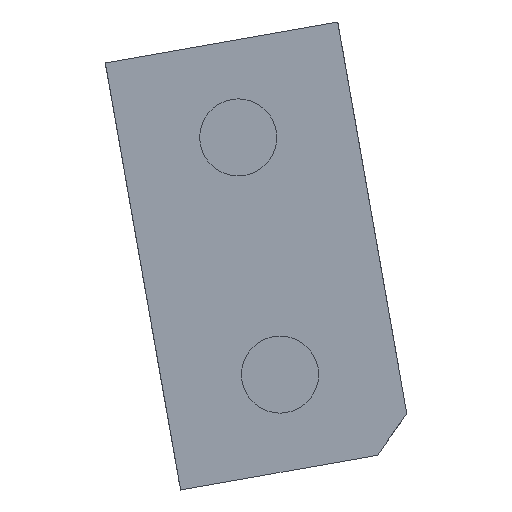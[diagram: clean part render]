
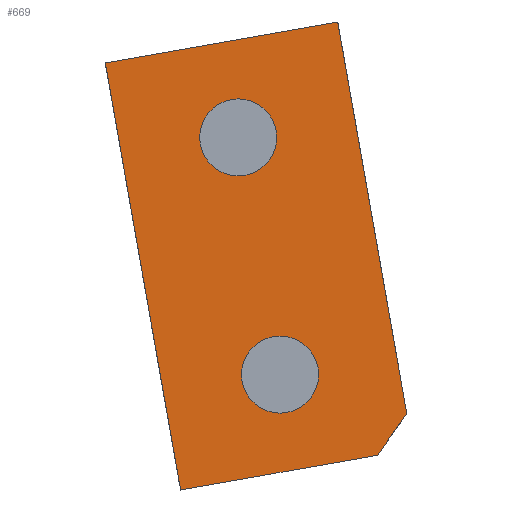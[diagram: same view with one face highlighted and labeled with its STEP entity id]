
A CAD part, left-side view. The second image highlights one B-rep face of the part: STEP entity #669.
In plain terms, the highlighted planar face has unit normal (-1, 0, 0).
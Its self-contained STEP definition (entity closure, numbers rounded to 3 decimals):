
#27=FACE_BOUND('',#102,.T.);
#28=FACE_BOUND('',#103,.T.);
#38=CIRCLE('',#724,1.6);
#39=CIRCLE('',#725,1.6);
#62=FACE_OUTER_BOUND('',#101,.T.);
#101=EDGE_LOOP('',(#455,#456,#457,#458,#459));
#102=EDGE_LOOP('',(#460));
#103=EDGE_LOOP('',(#461));
#151=LINE('',#991,#222);
#153=LINE('',#995,#224);
#154=LINE('',#997,#225);
#155=LINE('',#999,#226);
#156=LINE('',#1000,#227);
#222=VECTOR('',#791,10.);
#224=VECTOR('',#795,10.);
#225=VECTOR('',#796,10.);
#226=VECTOR('',#797,10.);
#227=VECTOR('',#798,10.);
#295=VERTEX_POINT('',#988);
#296=VERTEX_POINT('',#990);
#297=VERTEX_POINT('',#994);
#298=VERTEX_POINT('',#996);
#299=VERTEX_POINT('',#998);
#300=VERTEX_POINT('',#1001);
#301=VERTEX_POINT('',#1003);
#358=EDGE_CURVE('',#296,#295,#151,.T.);
#360=EDGE_CURVE('',#295,#297,#153,.T.);
#361=EDGE_CURVE('',#298,#297,#154,.T.);
#362=EDGE_CURVE('',#298,#299,#155,.T.);
#363=EDGE_CURVE('',#296,#299,#156,.T.);
#364=EDGE_CURVE('',#300,#300,#38,.T.);
#365=EDGE_CURVE('',#301,#301,#39,.T.);
#455=ORIENTED_EDGE('',*,*,#358,.T.);
#456=ORIENTED_EDGE('',*,*,#360,.T.);
#457=ORIENTED_EDGE('',*,*,#361,.F.);
#458=ORIENTED_EDGE('',*,*,#362,.T.);
#459=ORIENTED_EDGE('',*,*,#363,.F.);
#460=ORIENTED_EDGE('',*,*,#364,.T.);
#461=ORIENTED_EDGE('',*,*,#365,.T.);
#642=PLANE('',#723);
#669=ADVANCED_FACE('',(#62,#27,#28),#642,.F.);
#723=AXIS2_PLACEMENT_3D('',#993,#793,#794);
#724=AXIS2_PLACEMENT_3D('',#1002,#799,#800);
#725=AXIS2_PLACEMENT_3D('',#1004,#801,#802);
#791=DIRECTION('',(0.,-0.574,0.819));
#793=DIRECTION('center_axis',(1.,0.,0.));
#794=DIRECTION('ref_axis',(0.,-0.174,-0.985));
#795=DIRECTION('',(0.,0.174,0.985));
#796=DIRECTION('',(0.,-0.985,0.174));
#797=DIRECTION('',(0.,-0.174,-0.985));
#798=DIRECTION('',(0.,0.985,-0.174));
#799=DIRECTION('center_axis',(1.,0.,0.));
#800=DIRECTION('ref_axis',(0.,0.985,-0.174));
#801=DIRECTION('center_axis',(1.,0.,0.));
#802=DIRECTION('ref_axis',(0.,0.985,-0.174));
#988=CARTESIAN_POINT('',(41.226,-329.779,-3.466));
#990=CARTESIAN_POINT('',(41.226,-328.562,-5.204));
#991=CARTESIAN_POINT('',(41.226,-331.401,-1.149));
#993=CARTESIAN_POINT('Origin',(41.226,-302.962,24.807));
#994=CARTESIAN_POINT('',(41.226,-326.914,12.783));
#995=CARTESIAN_POINT('',(41.226,-328.824,1.951));
#996=CARTESIAN_POINT('',(41.226,-317.263,11.082));
#997=CARTESIAN_POINT('',(41.226,-297.37,7.574));
#998=CARTESIAN_POINT('',(41.226,-320.388,-6.645));
#999=CARTESIAN_POINT('',(41.226,-319.173,0.249));
#1000=CARTESIAN_POINT('',(41.226,-300.495,-10.153));
#1001=CARTESIAN_POINT('',(41.226,-326.095,-1.577));
#1002=CARTESIAN_POINT('Origin',(41.226,-324.519,-1.855));
#1003=CARTESIAN_POINT('',(41.226,-324.359,8.271));
#1004=CARTESIAN_POINT('Origin',(41.226,-322.783,7.993));
